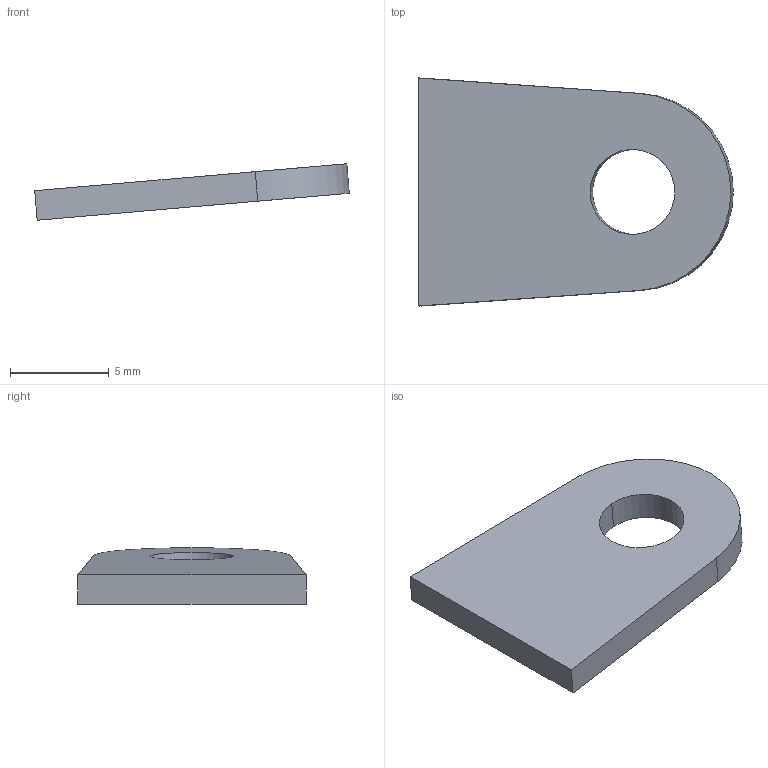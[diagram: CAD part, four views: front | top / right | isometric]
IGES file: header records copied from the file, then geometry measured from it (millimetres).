
Start section: START RECORD GO HERE.
Global section: file name: 20M_FR_A0800a (chape fond plat cockpit arriere).igs; native system: IBM CATIA IGES - CATIA Version 5 Release 19 ; preprocessor: CATIA Version 5 Release 19 ; author: Martin Kawczynski; organization: DESKTOP-UDLM1FC; date: 20200123.163016; units: millimetre
Bounding box: 15.93 x 11.54 x 2.86 mm (x, y, z)
Surface area: 377.5 mm2 (no closed solid volume)
Topology: 0 solids, 0 shells, 8 faces, 36 edges, 36 vertices
Faces by surface type: plane 5, revolution 3
